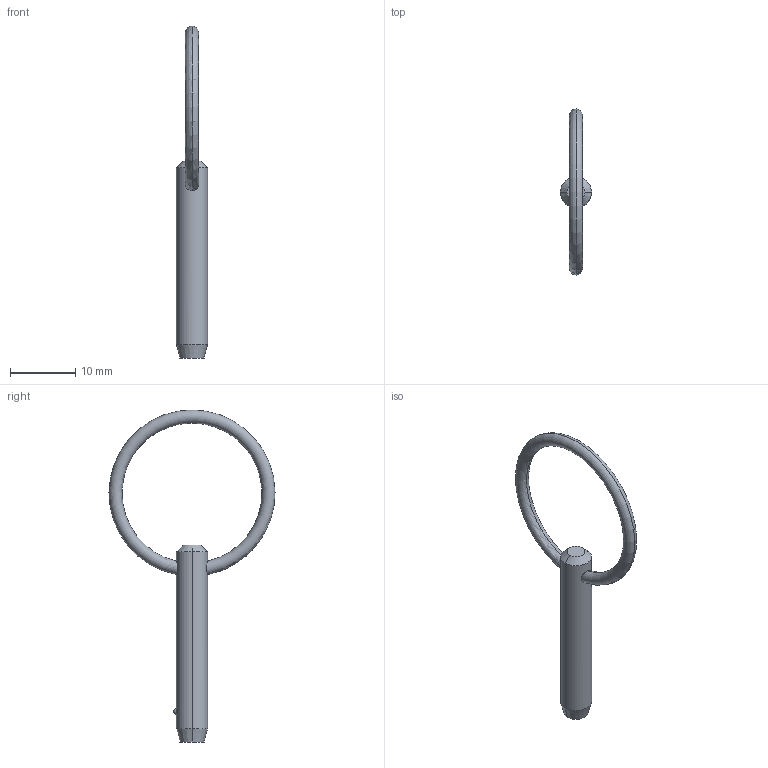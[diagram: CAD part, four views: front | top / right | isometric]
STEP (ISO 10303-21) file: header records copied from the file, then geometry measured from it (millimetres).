
FILE_DESCRIPTION (( 'STEP AP203' ), '1' );
FILE_NAME ('P1250.018-080.step', '2019-07-29T19:30:14', ( '' ), ( '' ), 'SwSTEP 2.0', 'SolidWorks 2017', '' );
FILE_SCHEMA (( 'CONFIG_CONTROL_DESIGN' ));
Length unit declared in the file: millimetre
Products named in the file (1): P1250.018-080
Bounding box: 4.76 x 25.4 x 50.78 mm (x, y, z)
Volume: 738.5 mm3; surface area: 893.6 mm2
Topology: 1 solids, 1 shells, 12 faces, 28 edges, 17 vertices
Faces by surface type: cone 4, torus 2, sphere 2, cylinder 2, plane 2
Entity records: 471 total; most frequent: CARTESIAN_POINT 138, DIRECTION 56, ORIENTED_EDGE 48, AXIS2_PLACEMENT_3D 25, EDGE_CURVE 24, VERTEX_POINT 15, EDGE_LOOP 15, ADVANCED_FACE 12
